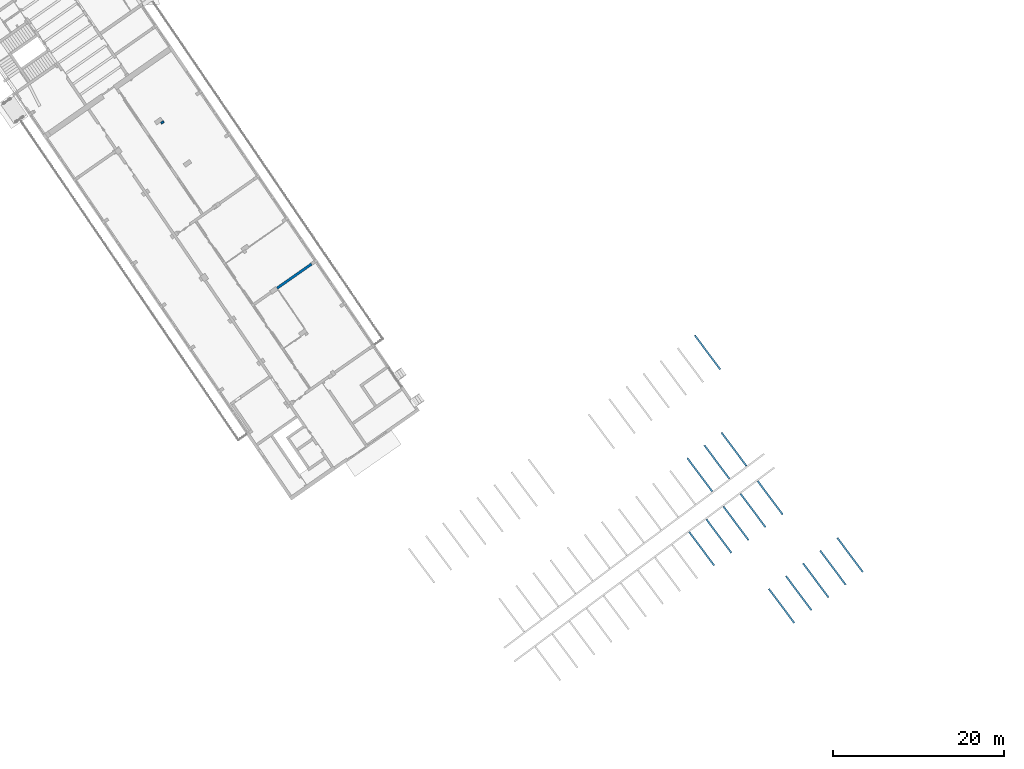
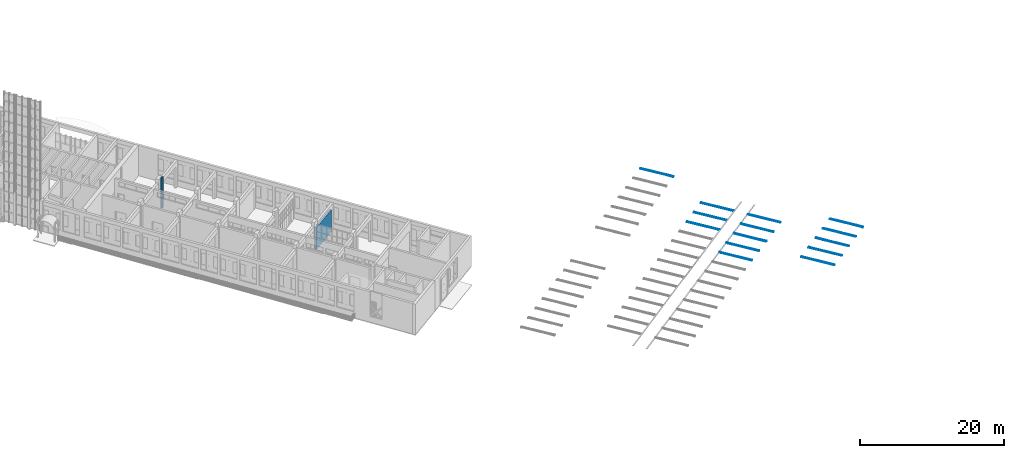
# One storey, part 86 of 157: 16 walls.
"""IFC2X3 building model written with IfcOpenShell, lengths in millimetres."""

from ifc_helpers import new_model, entity, si_unit, converted_unit, derived_unit, direction, frame, frame_2d, origin, place, context, subcontext, project, spatial, polyline, rectangle, outline, extrude, material, layer, layer_set, layer_usage, type_object, element, save


model = new_model("IFC2X3")

# Units and contexts
model_context = context("Model", 3, precision=0.01, world=origin(), true_north=direction((6.123031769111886e-17, 1.0)))
body_context = subcontext(model_context, "Body", "Model", "MODEL_VIEW")
ifc_project = project(units=[si_unit("LENGTHUNIT", "METRE", prefix="MILLI"), si_unit("AREAUNIT", "SQUARE_METRE"), si_unit("VOLUMEUNIT", "CUBIC_METRE"), converted_unit("PLANEANGLEUNIT", "DEGREE", entity("IfcRatioMeasure", 0.017453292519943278), si_unit("PLANEANGLEUNIT", "RADIAN"), dimensions=[0, 0, 0, 0, 0, 0, 0]), si_unit("MASSUNIT", "GRAM", prefix="KILO"), derived_unit("MASSDENSITYUNIT", [(si_unit("MASSUNIT", "GRAM", prefix="KILO"), 1), (si_unit("LENGTHUNIT", "METRE"), -3)]), derived_unit("MOMENTOFINERTIAUNIT", [(si_unit("LENGTHUNIT", "METRE"), 4)]), si_unit("TIMEUNIT", "SECOND"), si_unit("FREQUENCYUNIT", "HERTZ"), si_unit("THERMODYNAMICTEMPERATUREUNIT", "DEGREE_CELSIUS"), derived_unit("THERMALTRANSMITTANCEUNIT", [(si_unit("MASSUNIT", "GRAM", prefix="KILO"), 1), (si_unit("THERMODYNAMICTEMPERATUREUNIT", "KELVIN"), -1), (si_unit("TIMEUNIT", "SECOND"), -3)]), derived_unit("THERMALCONDUCTANCEUNIT", [(si_unit("MASSUNIT", "GRAM", prefix="KILO"), 1), (si_unit("LENGTHUNIT", "METRE"), 1), (si_unit("THERMODYNAMICTEMPERATUREUNIT", "KELVIN"), -1), (si_unit("TIMEUNIT", "SECOND"), -3)]), derived_unit("VOLUMETRICFLOWRATEUNIT", [(si_unit("LENGTHUNIT", "METRE"), 3), (si_unit("TIMEUNIT", "SECOND"), -1)]), derived_unit("MASSFLOWRATEUNIT", [(si_unit("MASSUNIT", "GRAM", prefix="KILO"), 1), (si_unit("TIMEUNIT", "SECOND"), -1)]), derived_unit("ROTATIONALFREQUENCYUNIT", [(si_unit("TIMEUNIT", "SECOND"), -1)]), si_unit("ELECTRICCURRENTUNIT", "AMPERE"), si_unit("ELECTRICVOLTAGEUNIT", "VOLT"), si_unit("POWERUNIT", "WATT"), converted_unit("FORCEUNIT", "KIP", entity("IfcRatioMeasure", 2.088543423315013e-05), si_unit("FORCEUNIT", "NEWTON"), dimensions=[1, 1, -2, 0, 0, 0, 0]), si_unit("ILLUMINANCEUNIT", "LUX"), si_unit("LUMINOUSFLUXUNIT", "LUMEN"), si_unit("LUMINOUSINTENSITYUNIT", "CANDELA"), derived_unit("USERDEFINED", [(si_unit("MASSUNIT", "GRAM", prefix="KILO"), -1), (si_unit("LENGTHUNIT", "METRE"), -2), (si_unit("TIMEUNIT", "SECOND"), 3), (si_unit("LUMINOUSFLUXUNIT", "LUMEN"), 1)]), derived_unit("USERDEFINED", [(si_unit("MASSUNIT", "GRAM", prefix="KILO"), 1), (si_unit("LENGTHUNIT", "METRE"), 3), (si_unit("TIMEUNIT", "SECOND"), -3), (si_unit("ELECTRICCURRENTUNIT", "AMPERE"), -2)]), derived_unit("USERDEFINED", [(si_unit("LENGTHUNIT", "METRE"), 2), (si_unit("TIMEUNIT", "SECOND"), -2)]), derived_unit("SOUNDPOWERUNIT", [(si_unit("MASSUNIT", "GRAM", prefix="KILO"), 1), (si_unit("LENGTHUNIT", "METRE"), 2), (si_unit("TIMEUNIT", "SECOND"), -3)]), derived_unit("SOUNDPRESSUREUNIT", [(si_unit("MASSUNIT", "GRAM", prefix="KILO"), 1), (si_unit("LENGTHUNIT", "METRE"), -1), (si_unit("TIMEUNIT", "SECOND"), -2)]), derived_unit("LINEARVELOCITYUNIT", [(si_unit("LENGTHUNIT", "METRE"), 1), (si_unit("TIMEUNIT", "SECOND"), -1)]), si_unit("PRESSUREUNIT", "PASCAL"), derived_unit("USERDEFINED", [(si_unit("LENGTHUNIT", "METRE"), -2), (si_unit("MASSUNIT", "GRAM", prefix="KILO"), 1), (si_unit("TIMEUNIT", "SECOND"), -2)]), derived_unit("LINEARFORCEUNIT", [(si_unit("MASSUNIT", "GRAM", prefix="KILO"), 1), (si_unit("LENGTHUNIT", "METRE"), 1), (si_unit("TIMEUNIT", "SECOND"), -2), (si_unit("LENGTHUNIT", "METRE"), -1)]), derived_unit("PLANARFORCEUNIT", [(si_unit("MASSUNIT", "GRAM", prefix="KILO"), 1), (si_unit("LENGTHUNIT", "METRE"), 1), (si_unit("TIMEUNIT", "SECOND"), -2), (si_unit("LENGTHUNIT", "METRE"), -2)]), derived_unit("SPECIFICHEATCAPACITYUNIT", [(si_unit("LENGTHUNIT", "METRE"), 2), (si_unit("TIMEUNIT", "SECOND"), -2), (si_unit("THERMODYNAMICTEMPERATUREUNIT", "KELVIN"), -1)]), derived_unit("VAPORPERMEABILITYUNIT", [(si_unit("TIMEUNIT", "SECOND"), 1), (si_unit("LENGTHUNIT", "METRE"), -1)]), derived_unit("DYNAMICVISCOSITYUNIT", [(si_unit("MASSUNIT", "GRAM", prefix="KILO"), 1), (si_unit("LENGTHUNIT", "METRE"), -1), (si_unit("TIMEUNIT", "SECOND"), -1)]), derived_unit("THERMALEXPANSIONCOEFFICIENTUNIT", [(si_unit("THERMODYNAMICTEMPERATUREUNIT", "KELVIN"), -1)])], contexts=[model_context])

# Site, building, storey
site_placement = place(None, frame((0.0, 0.0, 0.0), z_axis=(0.0, 0.0, 1.0), x_axis=(0.8191520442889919, 0.5735764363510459, 0.0)))
site = spatial("IfcSite", under=ifc_project, at=site_placement, Name="Default", CompositionType="ELEMENT")
building_placement = place(site_placement, origin())
building = spatial("IfcBuilding", under=site, at=building_placement, CompositionType="ELEMENT")
storey_placement = place(building_placement, origin())
storey = spatial("IfcBuildingStorey", under=building, at=storey_placement, Name="1.EG +0.00", CompositionType="ELEMENT", Elevation=-4.331468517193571e-12)

# Walls
ifc_material_1 = material(Name="road_markirovka")
wall_type_1 = type_object("IfcWallType", Name="04", PredefinedType="NOTDEFINED", material=ifc_material_1)
wall_1_placement = place(storey_placement, frame((-176623.8133307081, 6712.248212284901, -100.0), z_axis=(0.0, 0.0, 1.0), x_axis=(0.0, 1.0, 0.0)))
element("IfcWall", 1, at=wall_1_placement, inside=storey, type_object=wall_type_1, material=ifc_material_1, Name="04 203866:04 203866", ObjectType="04 203866:04 203866", context=body_context, shape_type="SweptSolid", body=[
    extrude(rectangle(XDim=200.00000000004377, YDim=5000.0018757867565, at=frame_2d((-1.7330137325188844e-11, 0.0), x_axis=(1.0, 0.0))), frame((2501.872632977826, -174.65169273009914, 0.0), z_axis=(0.0, 0.0, 1.0), x_axis=(-0.029878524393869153, 0.999553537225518, 0.0)), (0.0, 0.0, 1.0), 9.99999999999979),
])
wall_type_2 = type_object("IfcWallType", Name="05", PredefinedType="NOTDEFINED", material=ifc_material_1)
wall_2_placement = place(storey_placement, frame((-174124.92948624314, 6786.9444763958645, -100.0), z_axis=(0.0, 0.0, 1.0), x_axis=(0.0, 1.0, 0.0)))
element("IfcWall", 2, at=wall_2_placement, inside=storey, type_object=wall_type_2, material=ifc_material_1, Name="05 203867:05 203867", ObjectType="05 203867:05 203867", context=body_context, shape_type="SweptSolid", body=[
    extrude(rectangle(XDim=200.00000000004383, YDim=5000.001875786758, at=frame_2d((1.7287504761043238e-11, -9.094947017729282e-13), x_axis=(1.0, 0.0))), frame((2501.8726329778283, -174.65169273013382, 0.0), z_axis=(0.0, 0.0, 1.0), x_axis=(-0.029878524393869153, 0.999553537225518, 0.0)), (0.0, 0.0, 1.0), 9.99999999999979),
])
wall_type_3 = type_object("IfcWallType", Name="05", PredefinedType="NOTDEFINED", material=ifc_material_1)
wall_3_placement = place(storey_placement, frame((-179122.6971751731, 6637.551948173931, -100.0), z_axis=(0.0, 0.0, 1.0), x_axis=(0.0, 1.0, 0.0)))
element("IfcWall", 3, at=wall_3_placement, inside=storey, type_object=wall_type_3, material=ifc_material_1, Name="05 203871:05 203871", ObjectType="05 203871:05 203871", context=body_context, shape_type="SweptSolid", body=[
    extrude(rectangle(XDim=200.00000000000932, YDim=5000.001875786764, at=frame_2d((1.731592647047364e-11, -6.821210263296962e-13), x_axis=(1.0, 0.0))), frame((2501.8726329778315, -174.65169273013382, 0.0), z_axis=(0.0, 0.0, 1.0), x_axis=(-0.029878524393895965, 0.9995535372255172, 0.0)), (0.0, 0.0, 1.0), 9.99999999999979),
])
wall_type_4 = type_object("IfcWallType", Name="04", PredefinedType="NOTDEFINED", material=ifc_material_1)
wall_4_placement = place(storey_placement, frame((-181621.58101963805, 6562.855684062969, -100.0), z_axis=(0.0, 0.0, 1.0), x_axis=(0.0, 1.0, 0.0)))
element("IfcWall", 4, at=wall_4_placement, inside=storey, type_object=wall_type_4, material=ifc_material_1, Name="04 203872:04 203872", ObjectType="04 203872:04 203872", context=body_context, shape_type="SweptSolid", body=[
    extrude(rectangle(XDim=200.00000000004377, YDim=5000.00187578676, at=frame_2d((-1.730882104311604e-11, 4.547473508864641e-13), x_axis=(1.0, 0.0))), frame((2501.8726329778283, -174.65169273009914, 0.0), z_axis=(0.0, 0.0, 1.0), x_axis=(-0.029878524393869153, 0.999553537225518, 0.0)), (0.0, 0.0, 1.0), 9.99999999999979),
])
wall_type_5 = type_object("IfcWallType", Name="05", PredefinedType="NOTDEFINED", material=ifc_material_1)
wall_5_placement = place(storey_placement, frame((-184120.46486410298, 6488.159419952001, -100.0), z_axis=(0.0, 0.0, 1.0), x_axis=(0.0, 1.0, 0.0)))
element("IfcWall", 5, at=wall_5_placement, inside=storey, type_object=wall_type_5, material=ifc_material_1, Name="05 203888:05 203888", ObjectType="05 203888:05 203888", context=body_context, shape_type="SweptSolid", body=[
    extrude(rectangle(XDim=200.00000000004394, YDim=5000.001875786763, at=frame_2d((-1.7337242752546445e-11, 0.0), x_axis=(1.0, 0.0))), frame((2501.8726329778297, -174.65169273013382, 0.0), z_axis=(0.0, 0.0, 1.0), x_axis=(-0.02987852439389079, 0.9995535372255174, 0.0)), (0.0, 0.0, 1.0), 9.999999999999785),
])
wall_type_6 = type_object("IfcWallType", Name="05", PredefinedType="NOTDEFINED", material=ifc_material_1)
wall_6_placement = place(storey_placement, frame((-174191.75038358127, 35797.90224225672, -100.0), z_axis=(0.0, 0.0, 1.0), x_axis=(0.0, 1.0, 0.0)))
element("IfcWall", 6, at=wall_6_placement, inside=storey, type_object=wall_type_6, material=ifc_material_1, Name="05 203891:05 203891", ObjectType="05 203891:05 203891", context=body_context, shape_type="SweptSolid", body=[
    extrude(rectangle(XDim=200.00000000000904, YDim=4999.999999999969, at=frame_2d((1.7188028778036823e-11, -5.002220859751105e-12), x_axis=(1.0, 0.0))), frame((2501.87169550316, -174.6516647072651, 0.0), z_axis=(0.0, 0.0, 1.0), x_axis=(-0.02987852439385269, 0.9995535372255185, 0.0)), (0.0, 0.0, 1.0), 9.99999999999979),
])
wall_type_7 = type_object("IfcWallType", Name="04", PredefinedType="NOTDEFINED", material=ifc_material_1)
wall_7_placement = place(storey_placement, frame((-178161.16495058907, 24677.32349557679, -100.0), z_axis=(0.0, 0.0, 1.0), x_axis=(0.0, 1.0, 0.0)))
element("IfcWall", 7, at=wall_7_placement, inside=storey, type_object=wall_type_7, material=ifc_material_1, Name="04 204542:04 204542", ObjectType="04 204542:04 204542", context=body_context, shape_type="SweptSolid", body=[
    extrude(outline(polyline([(-100.0, -2449.9997655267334), (100.0, -2449.9997655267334), (100.0, 2449.9997392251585), (-100.0, 2449.999791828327), (-100.0, -2449.9997655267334)])), frame((2548.8612669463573, -173.15832891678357, 0.0), z_axis=(0.0, 0.0, 1.0), x_axis=(-0.029878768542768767, 0.999553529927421, 0.0)), (0.0, 0.0, 1.0), 9.999999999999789),
])
wall_type_8 = type_object("IfcWallType", Name="04", PredefinedType="NOTDEFINED", material=ifc_material_1)
wall_8_placement = place(storey_placement, frame((-180660.04878104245, 24602.62723146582, -100.0), z_axis=(0.0, 0.0, 1.0), x_axis=(0.0, 1.0, 0.0)))
element("IfcWall", 8, at=wall_8_placement, inside=storey, type_object=wall_type_8, material=ifc_material_1, Name="04 204776:04 204776", ObjectType="04 204776:04 204776", context=body_context, shape_type="SweptSolid", body=[
    extrude(outline(polyline([(-100.0, -2449.9995310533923), (100.0, -2449.9995310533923), (100.0, 2449.9995047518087), (-100.0, 2449.999557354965), (-100.0, -2449.9995310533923)])), frame((2548.8610325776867, -173.15832191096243, 0.0), z_axis=(0.0, 0.0, 1.0), x_axis=(-0.029878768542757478, 0.9995535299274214, 0.0)), (0.0, 0.0, 1.0), 9.999999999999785),
])
wall_type_9 = type_object("IfcWallType", Name="04", PredefinedType="NOTDEFINED", material=ifc_material_1)
wall_9_placement = place(storey_placement, frame((-183158.93455622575, 24527.93091508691, -100.0), z_axis=(0.0, 0.0, 1.0), x_axis=(0.0, 1.0, 0.0)))
element("IfcWall", 9, at=wall_9_placement, inside=storey, type_object=wall_type_9, material=ifc_material_1, Name="04 204813:04 204813", ObjectType="04 204813:04 204813", context=body_context, shape_type="SweptSolid", body=[
    extrude(outline(polyline([(-100.0, -2450.00257920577), (100.0, -2450.00257920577), (100.0, 2450.0025529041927), (-100.0, 2450.0026055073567), (-100.0, -2450.00257920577)])), frame((2548.8640793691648, -173.15841298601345, 0.0), z_axis=(0.0, 0.0, 1.0), x_axis=(-0.029878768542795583, 0.9995535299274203, 0.0)), (0.0, 0.0, 1.0), 9.999999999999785),
])
wall_type_10 = type_object("IfcWallType", Name="04", PredefinedType="NOTDEFINED", material=ifc_material_1)
wall_10_placement = place(storey_placement, frame((-180447.90955319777, 17602.76370764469, -100.0), z_axis=(0.0, 0.0, 1.0), x_axis=(0.0, 1.0, 0.0)))
element("IfcWall", 10, at=wall_10_placement, inside=storey, type_object=wall_type_10, material=ifc_material_1, Name="04 204904:04 204904", ObjectType="04 204904:04 204904", context=body_context, shape_type="SweptSolid", body=[
    extrude(outline(polyline([(-99.99935561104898, -2450.0004689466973), (100.00064438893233, -2450.0004689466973), (99.99935561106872, 2450.000495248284), (-100.00064438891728, 2450.000442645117), (-99.99935561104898, -2450.0004689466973)])), frame((2451.894493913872, -173.1583507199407, 0.0), z_axis=(0.0, 0.0, 1.0), x_axis=(-0.029878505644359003, 0.9995535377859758, 0.0)), (0.0, 0.0, 1.0), 9.999999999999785),
])
wall_type_11 = type_object("IfcWallType", Name="04", PredefinedType="NOTDEFINED", material=ifc_material_1)
wall_11_placement = place(storey_placement, frame((-177949.02570873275, 17677.460440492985, -100.0), z_axis=(0.0, 0.0, 1.0), x_axis=(0.0, 1.0, 0.0)))
element("IfcWall", 11, at=wall_11_placement, inside=storey, type_object=wall_type_11, material=ifc_material_1, Name="04 204905:04 204905", ObjectType="04 204905:04 204905", context=body_context, shape_type="SweptSolid", body=[
    extrude(outline(polyline([(-99.99935561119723, -2450.000234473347), (100.00064438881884, -2450.000234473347), (99.9993556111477, 2450.0002607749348), (-100.00064438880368, 2450.000208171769), (-99.99935561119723, -2450.000234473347)])), frame((2451.89425954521, -173.15834371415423, 0.0), z_axis=(0.0, 0.0, 1.0), x_axis=(-0.029878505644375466, 0.9995535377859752, 0.0)), (0.0, 0.0, 1.0), 9.99999999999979),
])
wall_type_12 = type_object("IfcWallType", Name="04", PredefinedType="NOTDEFINED", material=ifc_material_1)
wall_12_placement = place(storey_placement, frame((-185445.67899069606, 17453.376752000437, -100.0), z_axis=(0.0, 0.0, 1.0), x_axis=(0.0, 1.0, 0.0)))
element("IfcWall", 12, at=wall_12_placement, inside=storey, type_object=wall_type_12, material=ifc_material_1, Name="04 204909:04 204909", ObjectType="04 204909:04 204909", context=body_context, shape_type="SweptSolid", body=[
    extrude(outline(polyline([(-99.99935561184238, -2449.9976552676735), (100.00064438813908, -2449.997655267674), (99.99935561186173, 2449.9976815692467), (-100.00064438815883, 2449.9976289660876), (-99.99935561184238, -2449.9976552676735)])), frame((2451.8916814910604, -173.15826665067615, 0.0), z_axis=(0.0, 0.0, 1.0), x_axis=(-0.029878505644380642, 0.9995535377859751, 0.0)), (0.0, 0.0, 1.0), 9.99999999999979),
])
wall_type_13 = type_object("IfcWallType", Name="04", PredefinedType="NOTDEFINED", material=ifc_material_1)
wall_13_placement = place(storey_placement, frame((-182946.795146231, 17528.073484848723, -100.0), z_axis=(0.0, 0.0, 1.0), x_axis=(0.0, 1.0, 0.0)))
element("IfcWall", 13, at=wall_13_placement, inside=storey, type_object=wall_type_13, material=ifc_material_1, Name="04 204910:04 204910", ObjectType="04 204910:04 204910", context=body_context, shape_type="SweptSolid", body=[
    extrude(outline(polyline([(-99.99935561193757, -2449.997420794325), (100.00064438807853, -2449.997420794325), (99.99935561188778, 2449.997447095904), (-100.00064438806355, 2449.99739449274), (-99.99935561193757, -2449.997420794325)])), frame((2451.8914471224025, -173.15825964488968, 0.0), z_axis=(0.0, 0.0, 1.0), x_axis=(-0.029878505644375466, 0.9995535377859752, 0.0)), (0.0, 0.0, 1.0), 9.99999999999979),
])
wall_type_14 = type_object("IfcWallType", Name="04", PredefinedType="NOTDEFINED", material=ifc_material_1)
wall_14_placement = place(storey_placement, frame((-187944.56283516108, 17378.680019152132, -100.0), z_axis=(0.0, 0.0, 1.0), x_axis=(0.0, 1.0, 0.0)))
element("IfcWall", 14, at=wall_14_placement, inside=storey, type_object=wall_type_14, material=ifc_material_1, Name="04 204913:04 204913", ObjectType="04 204913:04 204913", context=body_context, shape_type="SweptSolid", body=[
    extrude(outline(polyline([(-99.99935561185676, -2449.9978897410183), (100.00064438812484, -2449.9978897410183), (99.99935561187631, 2449.9979160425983), (-100.0006443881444, 2449.997863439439), (-99.99935561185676, -2449.9978897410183)])), frame((2451.891915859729, -173.158273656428, 0.0), z_axis=(0.0, 0.0, 1.0), x_axis=(-0.029878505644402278, 0.9995535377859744, 0.0)), (0.0, 0.0, 1.0), 9.99999999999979),
])
ifc_material_2 = material(Name="Analytical Wall Surface_CJC")
ifc_layer_1 = layer(ifc_material_2, 300.0)
ifc_layer_set_1 = layer_set([ifc_layer_1], Name="Basic Wall:Wand_Innen_30")
ifc_layer_usage_1 = layer_usage(ifc_layer_set_1, "AXIS2", "NEGATIVE", 150.0)
wall_type_15 = type_object("IfcWallType", Name="Basic Wall:Wand_Innen_30", PredefinedType="STANDARD", material=ifc_layer_set_1)
wall_15_placement = place(storey_placement, frame((-206090.32062380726, 73396.35891435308, 0.0), z_axis=(0.0, 0.0, 1.0), x_axis=(-1.0, 0.0, 0.0)))
element("IfcWallStandardCase", 15, at=wall_15_placement, inside=storey, type_object=wall_type_15, material=ifc_layer_usage_1, Name="Basic Wall:Wand_Innen_30", ObjectType="Basic Wall:Wand_Innen_30", context=body_context, shape_type="SweptSolid", body=[
    extrude(rectangle(XDim=4920.486186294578, YDim=300.00000000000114, at=frame_2d((2460.243093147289, -1.5916157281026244e-12), x_axis=(-1.0, 0.0))), origin(), (0.0, 0.0, 1.0), 3700.0000000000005),
])
ifc_layer_2 = layer(ifc_material_2, 350.0)
ifc_layer_set_2 = layer_set([ifc_layer_2], Name="Basic Wall:Wand_Innen_35")
ifc_layer_usage_2 = layer_usage(ifc_layer_set_2, "AXIS2", "NEGATIVE", 175.0)
wall_type_16 = type_object("IfcWallType", Name="Basic Wall:Wand_Innen_35", PredefinedType="STANDARD", material=ifc_layer_set_2)
wall_16_placement = place(storey_placement, frame((-210876.65566520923, 96896.3589143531, 0.0), z_axis=(0.0, 0.0, 1.0), x_axis=(0.0, 1.0, 0.0)))
element("IfcWallStandardCase", 16, at=wall_16_placement, inside=storey, type_object=wall_type_16, material=ifc_layer_usage_2, Name="Basic Wall:Wand_Innen_35", ObjectType="Basic Wall:Wand_Innen_35", context=body_context, shape_type="SweptSolid", body=[
    extrude(rectangle(XDim=250.00000000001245, YDim=350.0000000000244, at=frame_2d((125.00000000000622, 5.400124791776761e-13), x_axis=(-1.0, 0.0))), origin(), (0.0, 0.0, 1.0), 5150.000000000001),
])

save(model, "model.ifc")
